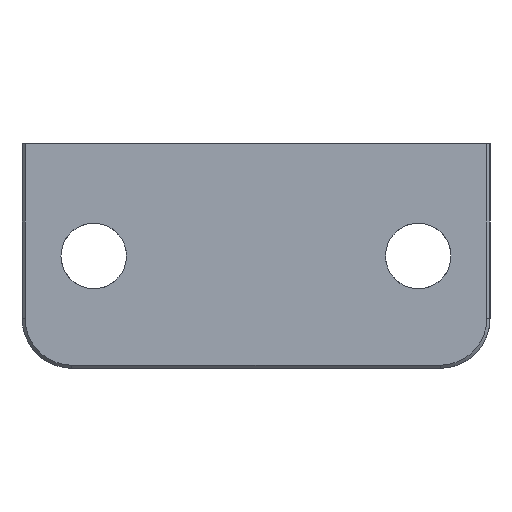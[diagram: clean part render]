
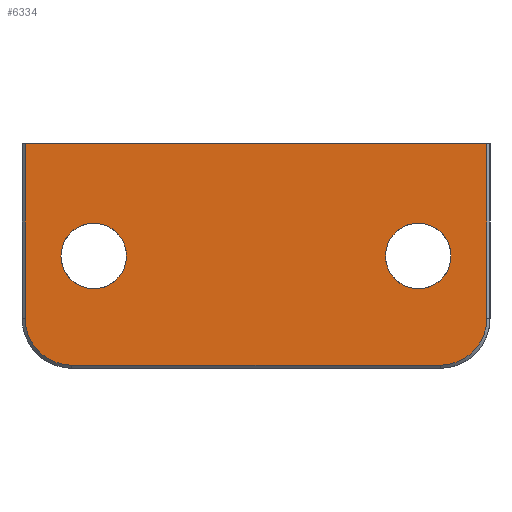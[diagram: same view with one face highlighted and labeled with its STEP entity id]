
A CAD part, front view. The second image highlights one B-rep face of the part: STEP entity #6334.
In plain terms, the highlighted planar face has unit normal (0, -1, 0).
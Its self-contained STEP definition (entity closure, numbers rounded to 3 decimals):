
#5935=CARTESIAN_POINT('Vertex',(-18.,0.,-37.)) ;
#5938=CARTESIAN_POINT('Line Origine',(-18.,0.,0.)) ;
#5942=CARTESIAN_POINT('Vertex',(-18.,0.,37.)) ;
#6172=CARTESIAN_POINT('Vertex',(10.,0.,-37.)) ;
#6175=CARTESIAN_POINT('Line Origine',(-4.,0.,-37.)) ;
#6187=CARTESIAN_POINT('Axis2P3D Location',(-18.,0.,37.5)) ;
#6192=CARTESIAN_POINT('Axis2P3D Location',(10.,0.,-29.5)) ;
#6196=CARTESIAN_POINT('Vertex',(17.5,0.,-29.5)) ;
#6199=CARTESIAN_POINT('Line Origine',(17.5,0.,0.)) ;
#6203=CARTESIAN_POINT('Vertex',(17.5,0.,29.5)) ;
#6206=CARTESIAN_POINT('Axis2P3D Location',(10.,0.,29.5)) ;
#6210=CARTESIAN_POINT('Vertex',(10.,0.,37.)) ;
#6213=CARTESIAN_POINT('Line Origine',(-4.,0.,37.)) ;
#6227=CARTESIAN_POINT('Control Point',(0.,0.,-20.75)) ;
#6228=CARTESIAN_POINT('Control Point',(0.561,0.,-20.75)) ;
#6229=CARTESIAN_POINT('Control Point',(1.122,0.,-20.825)) ;
#6230=CARTESIAN_POINT('Control Point',(1.67,0.,-20.975)) ;
#6231=CARTESIAN_POINT('Control Point',(2.713,0.,-21.418)) ;
#6232=CARTESIAN_POINT('Control Point',(3.602,0.,-22.119)) ;
#6233=CARTESIAN_POINT('Control Point',(3.997,0.,-22.527)) ;
#6234=CARTESIAN_POINT('Control Point',(4.669,0.,-23.439)) ;
#6235=CARTESIAN_POINT('Control Point',(5.077,0.,-24.495)) ;
#6236=CARTESIAN_POINT('Control Point',(5.209,0.,-25.048)) ;
#6237=CARTESIAN_POINT('Control Point',(5.322,0.,-26.174)) ;
#6238=CARTESIAN_POINT('Control Point',(5.135,0.,-27.291)) ;
#6239=CARTESIAN_POINT('Control Point',(4.968,0.,-27.834)) ;
#6240=CARTESIAN_POINT('Control Point',(4.491,0.,-28.861)) ;
#6241=CARTESIAN_POINT('Control Point',(3.761,0.,-29.727)) ;
#6242=CARTESIAN_POINT('Control Point',(3.34,0.,-30.109)) ;
#6243=CARTESIAN_POINT('Control Point',(2.464,0.,-30.711)) ;
#6244=CARTESIAN_POINT('Control Point',(1.468,0.,-31.077)) ;
#6245=CARTESIAN_POINT('Control Point',(0.985,0.,-31.192)) ;
#6246=CARTESIAN_POINT('Control Point',(0.492,0.,-31.25)) ;
#6247=CARTESIAN_POINT('Control Point',(0.,0.,-31.25)) ;
#6248=CARTESIAN_POINT('Vertex',(0.,0.,-20.75)) ;
#6250=CARTESIAN_POINT('Vertex',(0.,0.,-31.25)) ;
#6254=CARTESIAN_POINT('Control Point',(0.,0.,-31.25)) ;
#6255=CARTESIAN_POINT('Control Point',(-0.561,0.,-31.25)) ;
#6256=CARTESIAN_POINT('Control Point',(-1.122,0.,-31.175)) ;
#6257=CARTESIAN_POINT('Control Point',(-1.67,0.,-31.025)) ;
#6258=CARTESIAN_POINT('Control Point',(-2.713,0.,-30.582)) ;
#6259=CARTESIAN_POINT('Control Point',(-3.602,0.,-29.881)) ;
#6260=CARTESIAN_POINT('Control Point',(-3.997,0.,-29.473)) ;
#6261=CARTESIAN_POINT('Control Point',(-4.669,0.,-28.561)) ;
#6262=CARTESIAN_POINT('Control Point',(-5.077,0.,-27.505)) ;
#6263=CARTESIAN_POINT('Control Point',(-5.209,0.,-26.952)) ;
#6264=CARTESIAN_POINT('Control Point',(-5.322,0.,-25.826)) ;
#6265=CARTESIAN_POINT('Control Point',(-5.135,0.,-24.709)) ;
#6266=CARTESIAN_POINT('Control Point',(-4.968,0.,-24.166)) ;
#6267=CARTESIAN_POINT('Control Point',(-4.491,0.,-23.139)) ;
#6268=CARTESIAN_POINT('Control Point',(-3.761,0.,-22.273)) ;
#6269=CARTESIAN_POINT('Control Point',(-3.34,0.,-21.891)) ;
#6270=CARTESIAN_POINT('Control Point',(-2.464,0.,-21.289)) ;
#6271=CARTESIAN_POINT('Control Point',(-1.468,0.,-20.923)) ;
#6272=CARTESIAN_POINT('Control Point',(-0.985,0.,-20.808)) ;
#6273=CARTESIAN_POINT('Control Point',(-0.492,0.,-20.75)) ;
#6274=CARTESIAN_POINT('Control Point',(0.,0.,-20.75)) ;
#6281=CARTESIAN_POINT('Control Point',(0.,0.,31.25)) ;
#6282=CARTESIAN_POINT('Control Point',(0.561,0.,31.25)) ;
#6283=CARTESIAN_POINT('Control Point',(1.122,0.,31.175)) ;
#6284=CARTESIAN_POINT('Control Point',(1.67,0.,31.025)) ;
#6285=CARTESIAN_POINT('Control Point',(2.713,0.,30.582)) ;
#6286=CARTESIAN_POINT('Control Point',(3.602,0.,29.881)) ;
#6287=CARTESIAN_POINT('Control Point',(3.997,0.,29.473)) ;
#6288=CARTESIAN_POINT('Control Point',(4.669,0.,28.561)) ;
#6289=CARTESIAN_POINT('Control Point',(5.077,0.,27.505)) ;
#6290=CARTESIAN_POINT('Control Point',(5.209,0.,26.952)) ;
#6291=CARTESIAN_POINT('Control Point',(5.322,0.,25.826)) ;
#6292=CARTESIAN_POINT('Control Point',(5.135,0.,24.709)) ;
#6293=CARTESIAN_POINT('Control Point',(4.968,0.,24.166)) ;
#6294=CARTESIAN_POINT('Control Point',(4.491,0.,23.139)) ;
#6295=CARTESIAN_POINT('Control Point',(3.761,0.,22.273)) ;
#6296=CARTESIAN_POINT('Control Point',(3.34,0.,21.891)) ;
#6297=CARTESIAN_POINT('Control Point',(2.464,0.,21.289)) ;
#6298=CARTESIAN_POINT('Control Point',(1.468,0.,20.923)) ;
#6299=CARTESIAN_POINT('Control Point',(0.985,0.,20.808)) ;
#6300=CARTESIAN_POINT('Control Point',(0.492,0.,20.75)) ;
#6301=CARTESIAN_POINT('Control Point',(0.,0.,20.75)) ;
#6302=CARTESIAN_POINT('Vertex',(0.,0.,31.25)) ;
#6304=CARTESIAN_POINT('Vertex',(0.,0.,20.75)) ;
#6308=CARTESIAN_POINT('Control Point',(0.,0.,20.75)) ;
#6309=CARTESIAN_POINT('Control Point',(-0.561,0.,20.75)) ;
#6310=CARTESIAN_POINT('Control Point',(-1.122,0.,20.825)) ;
#6311=CARTESIAN_POINT('Control Point',(-1.67,0.,20.975)) ;
#6312=CARTESIAN_POINT('Control Point',(-2.713,0.,21.418)) ;
#6313=CARTESIAN_POINT('Control Point',(-3.602,0.,22.119)) ;
#6314=CARTESIAN_POINT('Control Point',(-3.997,0.,22.527)) ;
#6315=CARTESIAN_POINT('Control Point',(-4.669,0.,23.439)) ;
#6316=CARTESIAN_POINT('Control Point',(-5.077,0.,24.495)) ;
#6317=CARTESIAN_POINT('Control Point',(-5.209,0.,25.048)) ;
#6318=CARTESIAN_POINT('Control Point',(-5.322,0.,26.174)) ;
#6319=CARTESIAN_POINT('Control Point',(-5.135,0.,27.291)) ;
#6320=CARTESIAN_POINT('Control Point',(-4.968,0.,27.834)) ;
#6321=CARTESIAN_POINT('Control Point',(-4.491,0.,28.861)) ;
#6322=CARTESIAN_POINT('Control Point',(-3.761,0.,29.727)) ;
#6323=CARTESIAN_POINT('Control Point',(-3.34,0.,30.109)) ;
#6324=CARTESIAN_POINT('Control Point',(-2.464,0.,30.711)) ;
#6325=CARTESIAN_POINT('Control Point',(-1.468,0.,31.077)) ;
#6326=CARTESIAN_POINT('Control Point',(-0.985,0.,31.192)) ;
#6327=CARTESIAN_POINT('Control Point',(-0.492,0.,31.25)) ;
#6328=CARTESIAN_POINT('Control Point',(0.,0.,31.25)) ;
#5939=DIRECTION('Vector Direction',(0.,0.,-1.)) ;
#6176=DIRECTION('Vector Direction',(1.,0.,0.)) ;
#6188=DIRECTION('Axis2P3D Direction',(0.,-1.,0.)) ;
#6189=DIRECTION('Axis2P3D XDirection',(0.,0.,-1.)) ;
#6193=DIRECTION('Axis2P3D Direction',(0.,-1.,0.)) ;
#6200=DIRECTION('Vector Direction',(0.,0.,1.)) ;
#6207=DIRECTION('Axis2P3D Direction',(0.,-1.,0.)) ;
#6214=DIRECTION('Vector Direction',(-1.,0.,0.)) ;
#6190=AXIS2_PLACEMENT_3D('Plane Axis2P3D',#6187,#6188,#6189) ;
#6194=AXIS2_PLACEMENT_3D('Circle Axis2P3D',#6192,#6193,$) ;
#6208=AXIS2_PLACEMENT_3D('Circle Axis2P3D',#6206,#6207,$) ;
#6219=ORIENTED_EDGE('',*,*,#5944,.T.) ;
#6220=ORIENTED_EDGE('',*,*,#6179,.T.) ;
#6221=ORIENTED_EDGE('',*,*,#6198,.T.) ;
#6222=ORIENTED_EDGE('',*,*,#6205,.T.) ;
#6223=ORIENTED_EDGE('',*,*,#6212,.T.) ;
#6224=ORIENTED_EDGE('',*,*,#6217,.T.) ;
#6277=ORIENTED_EDGE('',*,*,#6252,.T.) ;
#6278=ORIENTED_EDGE('',*,*,#6275,.T.) ;
#6331=ORIENTED_EDGE('',*,*,#6306,.T.) ;
#6332=ORIENTED_EDGE('',*,*,#6329,.T.) ;
#6279=FACE_BOUND('',#6276,.T.) ;
#6333=FACE_BOUND('',#6330,.T.) ;
#5940=VECTOR('Line Direction',#5939,1.) ;
#6177=VECTOR('Line Direction',#6176,1.) ;
#6201=VECTOR('Line Direction',#6200,1.) ;
#6215=VECTOR('Line Direction',#6214,1.) ;
#6334=ADVANCED_FACE('MANIFOLD_SOLID_BREP #6011',(#6225,#6279,#6333),#6191,.T.) ;
#6226=B_SPLINE_CURVE_WITH_KNOTS('',5,(#6227,#6228,#6229,#6230,#6231,#6232,#6233,#6234,#6235,#6236,#6237,#6238,#6239,#6240,#6241,#6242,#6243,#6244,#6245,#6246,#6247),.UNSPECIFIED.,.F.,.U.,(6,3,3,3,3,3,6),(0.,3.969,7.937,11.906,15.874,19.843,23.325),.UNSPECIFIED.) ;
#6253=B_SPLINE_CURVE_WITH_KNOTS('',5,(#6254,#6255,#6256,#6257,#6258,#6259,#6260,#6261,#6262,#6263,#6264,#6265,#6266,#6267,#6268,#6269,#6270,#6271,#6272,#6273,#6274),.UNSPECIFIED.,.F.,.U.,(6,3,3,3,3,3,6),(0.,3.969,7.937,11.906,15.874,19.843,23.325),.UNSPECIFIED.) ;
#6280=B_SPLINE_CURVE_WITH_KNOTS('',5,(#6281,#6282,#6283,#6284,#6285,#6286,#6287,#6288,#6289,#6290,#6291,#6292,#6293,#6294,#6295,#6296,#6297,#6298,#6299,#6300,#6301),.UNSPECIFIED.,.F.,.U.,(6,3,3,3,3,3,6),(0.,3.969,7.937,11.906,15.874,19.843,23.325),.UNSPECIFIED.) ;
#6307=B_SPLINE_CURVE_WITH_KNOTS('',5,(#6308,#6309,#6310,#6311,#6312,#6313,#6314,#6315,#6316,#6317,#6318,#6319,#6320,#6321,#6322,#6323,#6324,#6325,#6326,#6327,#6328),.UNSPECIFIED.,.F.,.U.,(6,3,3,3,3,3,6),(0.,3.969,7.937,11.906,15.874,19.843,23.325),.UNSPECIFIED.) ;
#6195=CIRCLE('generated circle',#6194,7.5) ;
#6209=CIRCLE('generated circle',#6208,7.5) ;
#5944=EDGE_CURVE('',#5943,#5936,#5941,.T.) ;
#6179=EDGE_CURVE('',#5936,#6173,#6178,.T.) ;
#6198=EDGE_CURVE('',#6173,#6197,#6195,.T.) ;
#6205=EDGE_CURVE('',#6197,#6204,#6202,.T.) ;
#6212=EDGE_CURVE('',#6204,#6211,#6209,.T.) ;
#6217=EDGE_CURVE('',#6211,#5943,#6216,.T.) ;
#6252=EDGE_CURVE('',#6249,#6251,#6226,.T.) ;
#6275=EDGE_CURVE('',#6251,#6249,#6253,.T.) ;
#6306=EDGE_CURVE('',#6303,#6305,#6280,.T.) ;
#6329=EDGE_CURVE('',#6305,#6303,#6307,.T.) ;
#6218=EDGE_LOOP('',(#6219,#6220,#6221,#6222,#6223,#6224)) ;
#6276=EDGE_LOOP('',(#6277,#6278)) ;
#6330=EDGE_LOOP('',(#6331,#6332)) ;
#6225=FACE_OUTER_BOUND('',#6218,.T.) ;
#5941=LINE('Line',#5938,#5940) ;
#6178=LINE('Line',#6175,#6177) ;
#6202=LINE('Line',#6199,#6201) ;
#6216=LINE('Line',#6213,#6215) ;
#6191=PLANE('Plane',#6190) ;
#5936=VERTEX_POINT('',#5935) ;
#5943=VERTEX_POINT('',#5942) ;
#6173=VERTEX_POINT('',#6172) ;
#6197=VERTEX_POINT('',#6196) ;
#6204=VERTEX_POINT('',#6203) ;
#6211=VERTEX_POINT('',#6210) ;
#6249=VERTEX_POINT('',#6248) ;
#6251=VERTEX_POINT('',#6250) ;
#6303=VERTEX_POINT('',#6302) ;
#6305=VERTEX_POINT('',#6304) ;
